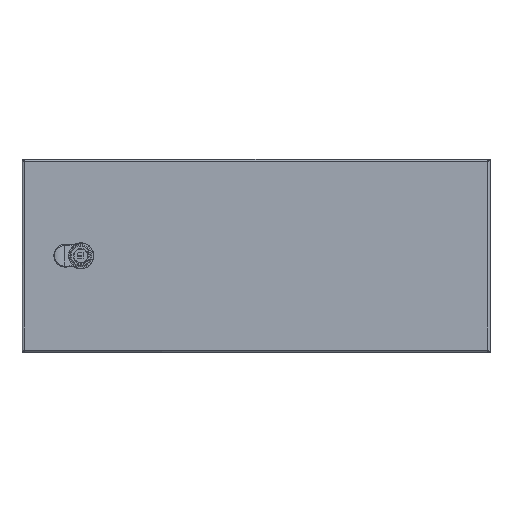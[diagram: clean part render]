
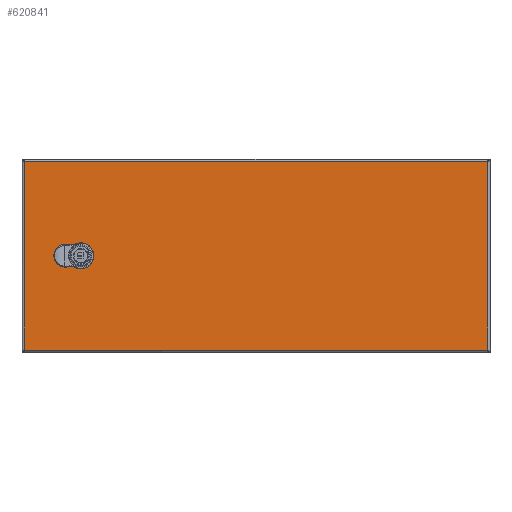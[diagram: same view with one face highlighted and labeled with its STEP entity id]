
A CAD part, top view. The second image highlights one B-rep face of the part: STEP entity #620841.
In plain terms, the highlighted planar face has unit normal (0, 0, 1).
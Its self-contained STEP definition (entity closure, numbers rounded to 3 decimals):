
#614751=CARTESIAN_POINT(' ',(308.602,110.657,253.699));
#614752=VERTEX_POINT(' ',#614751);
#615416=CARTESIAN_POINT(' ',(308.602,-128.743,253.699));
#615417=VERTEX_POINT(' ',#615416);
#616391=CARTESIAN_POINT(' ',(308.602,110.657,253.699));
#616396=DIRECTION(' ',(0.,-1.,0.));
#616401=VECTOR(' ',#616396,1.);
#616406=LINE('',#616391,#616401);
#616411=EDGE_CURVE(' ',#614752,#615417,#616406,.T.);
#618646=CARTESIAN_POINT(' ',(-279.798,-128.743,253.699));
#618647=VERTEX_POINT(' ',#618646);
#619261=CARTESIAN_POINT(' ',(-279.798,110.657,253.699));
#619262=VERTEX_POINT(' ',#619261);
#620711=DIRECTION(' ',(-0.,-0.,1.));
#620716=CARTESIAN_POINT(' ',(308.602,-128.743,253.699));
#620721=DIRECTION(' ',(0.,1.,0.));
#620726=AXIS2_PLACEMENT_3D(' ',#620716,#620711,#620721);
#620731=PLANE('NONE',#620726);
#620736=CARTESIAN_POINT(' ',(-279.798,-128.743,253.699));
#620741=DIRECTION(' ',(1.,0.,0.));
#620746=VECTOR(' ',#620741,1.);
#620751=LINE('',#620736,#620746);
#620756=EDGE_CURVE(' ',#618647,#615417,#620751,.T.);
#620761=ORIENTED_EDGE(' ',*,*,#620756,.T.);
#620766=ORIENTED_EDGE(' ',*,*,#616411,.F.);
#620771=CARTESIAN_POINT(' ',(308.602,110.657,253.699));
#620776=DIRECTION(' ',(-1.,0.,0.));
#620781=VECTOR(' ',#620776,1.);
#620786=LINE('',#620771,#620781);
#620791=EDGE_CURVE(' ',#614752,#619262,#620786,.T.);
#620796=ORIENTED_EDGE(' ',*,*,#620791,.T.);
#620801=CARTESIAN_POINT(' ',(-279.798,110.657,253.699));
#620806=DIRECTION(' ',(0.,-1.,0.));
#620811=VECTOR(' ',#620806,1.);
#620816=LINE('',#620801,#620811);
#620821=EDGE_CURVE(' ',#619262,#618647,#620816,.T.);
#620826=ORIENTED_EDGE(' ',*,*,#620821,.T.);
#620831=EDGE_LOOP(' ',(#620761,#620766,#620796,#620826));
#620836=FACE_OUTER_BOUND(' ',#620831,.T.);
#620841=ADVANCED_FACE('NONE',(#620836),#620731,.T.);
